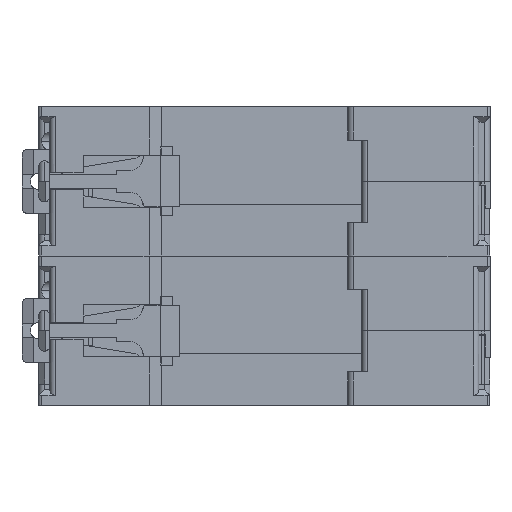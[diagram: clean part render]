
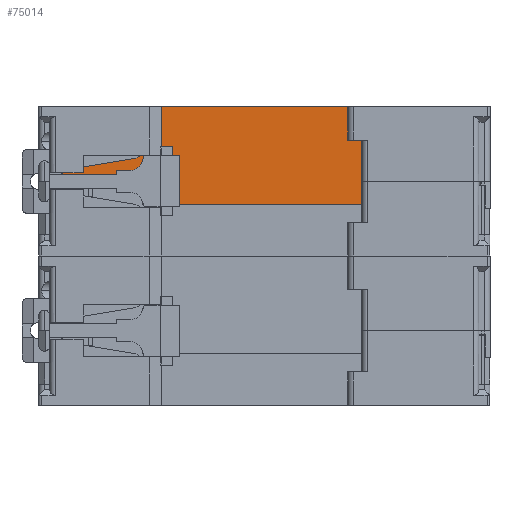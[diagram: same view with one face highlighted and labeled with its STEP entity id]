
A CAD part, front view. The second image highlights one B-rep face of the part: STEP entity #75014.
In plain terms, the highlighted planar face has unit normal (0, -1, 0).
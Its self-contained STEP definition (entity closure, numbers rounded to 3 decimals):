
#338 = CARTESIAN_POINT ( 'NONE',  ( -21.7, -60., 7.5 ) ) ;
#536 = CARTESIAN_POINT ( 'NONE',  ( 17.5, -60., 11.6 ) ) ;
#2205 = CARTESIAN_POINT ( 'NONE',  ( -21.7, -60., 7.5 ) ) ;
#3290 = CARTESIAN_POINT ( 'NONE',  ( -38.5, -60., 11.6 ) ) ;
#3394 = VERTEX_POINT ( 'NONE', #61635 ) ;
#6764 = DIRECTION ( 'NONE',  ( 1., 0., 0. ) ) ;
#7011 = EDGE_CURVE ( 'NONE', #9031, #3394, #61293, .T. ) ;
#7109 = CARTESIAN_POINT ( 'NONE',  ( 20.3, -60., 11.6 ) ) ;
#8163 = LINE ( 'NONE', #27950, #11205 ) ;
#8422 = DIRECTION ( 'NONE',  ( 0., 0., 1. ) ) ;
#8523 = EDGE_CURVE ( 'NONE', #39723, #45818, #73158, .T. ) ;
#9031 = VERTEX_POINT ( 'NONE', #48712 ) ;
#9073 = ORIENTED_EDGE ( 'NONE', *, *, #14411, .T. ) ;
#9301 = LINE ( 'NONE', #40635, #22387 ) ;
#9841 = EDGE_CURVE ( 'NONE', #9031, #45818, #25629, .T. ) ;
#9847 = ORIENTED_EDGE ( 'NONE', *, *, #82690, .F. ) ;
#10232 = ORIENTED_EDGE ( 'NONE', *, *, #52194, .F. ) ;
#10352 = EDGE_CURVE ( 'NONE', #37656, #46892, #45354, .T. ) ;
#10519 = VECTOR ( 'NONE', #32353, 1000. ) ;
#11205 = VECTOR ( 'NONE', #79999, 1000. ) ;
#11443 = DIRECTION ( 'NONE',  ( 1., 0., 0. ) ) ;
#12059 = DIRECTION ( 'NONE',  ( 0., 0., 1. ) ) ;
#13454 = CARTESIAN_POINT ( 'NONE',  ( -22.3, -60., 18. ) ) ;
#14411 = EDGE_CURVE ( 'NONE', #42929, #37656, #29536, .T. ) ;
#16230 = DIRECTION ( 'NONE',  ( 0., -1., 0. ) ) ;
#17585 = EDGE_CURVE ( 'NONE', #56089, #24926, #38776, .T. ) ;
#17915 = CARTESIAN_POINT ( 'NONE',  ( 1.246, -60., 11.6 ) ) ;
#19817 = CARTESIAN_POINT ( 'NONE',  ( -38.5, -60., 17.8 ) ) ;
#21267 = DIRECTION ( 'NONE',  ( 0., 0., 1. ) ) ;
#21538 = ORIENTED_EDGE ( 'NONE', *, *, #26386, .F. ) ;
#22387 = VECTOR ( 'NONE', #40078, 1000. ) ;
#24228 = CARTESIAN_POINT ( 'NONE',  ( -22.3, -60., 18. ) ) ;
#24285 = EDGE_CURVE ( 'NONE', #56313, #51038, #76918, .T. ) ;
#24775 = EDGE_CURVE ( 'NONE', #56313, #30605, #9301, .T. ) ;
#24890 = VECTOR ( 'NONE', #32292, 1000. ) ;
#24926 = VERTEX_POINT ( 'NONE', #35222 ) ;
#25557 = VECTOR ( 'NONE', #11443, 1000. ) ;
#25629 = LINE ( 'NONE', #44359, #34665 ) ;
#25897 = CARTESIAN_POINT ( 'NONE',  ( -21.7, -60., 11.6 ) ) ;
#25920 = DIRECTION ( 'NONE',  ( 1., 0., 0. ) ) ;
#26386 = EDGE_CURVE ( 'NONE', #56089, #46892, #64528, .T. ) ;
#27522 = ORIENTED_EDGE ( 'NONE', *, *, #10352, .T. ) ;
#27950 = CARTESIAN_POINT ( 'NONE',  ( -26.4, -60., 17.8 ) ) ;
#28278 = ORIENTED_EDGE ( 'NONE', *, *, #50991, .F. ) ;
#28383 = CARTESIAN_POINT ( 'NONE',  ( 1.246, -60., 11.6 ) ) ;
#29536 = LINE ( 'NONE', #2205, #72882 ) ;
#29695 = DIRECTION ( 'NONE',  ( -1., 0., 0. ) ) ;
#30605 = VERTEX_POINT ( 'NONE', #19817 ) ;
#31188 = AXIS2_PLACEMENT_3D ( 'NONE', #80404, #16230, #73437 ) ;
#31458 = VECTOR ( 'NONE', #21267, 1000. ) ;
#32046 = VECTOR ( 'NONE', #75485, 1000. ) ;
#32292 = DIRECTION ( 'NONE',  ( 0.913, 0., 0.409 ) ) ;
#32353 = DIRECTION ( 'NONE',  ( 0., 0., 1. ) ) ;
#32889 = DIRECTION ( 'NONE',  ( 0., 0., -1. ) ) ;
#32934 = CARTESIAN_POINT ( 'NONE',  ( 1.246, -60., 25. ) ) ;
#33105 = CARTESIAN_POINT ( 'NONE',  ( -28., -60., 19.1 ) ) ;
#34497 = LINE ( 'NONE', #59910, #31458 ) ;
#34665 = VECTOR ( 'NONE', #64025, 1000. ) ;
#35222 = CARTESIAN_POINT ( 'NONE',  ( 17.5, -60., 25. ) ) ;
#35520 = CARTESIAN_POINT ( 'NONE',  ( 20.3, -60., 7.5 ) ) ;
#37037 = ORIENTED_EDGE ( 'NONE', *, *, #24775, .F. ) ;
#37656 = VERTEX_POINT ( 'NONE', #35520 ) ;
#38776 = LINE ( 'NONE', #536, #10519 ) ;
#39273 = VECTOR ( 'NONE', #12059, 1000. ) ;
#39723 = VERTEX_POINT ( 'NONE', #50540 ) ;
#40078 = DIRECTION ( 'NONE',  ( 0., 0., 1. ) ) ;
#40635 = CARTESIAN_POINT ( 'NONE',  ( -38.5, -60., 11.6 ) ) ;
#40938 = VECTOR ( 'NONE', #25920, 1000. ) ;
#41359 = PLANE ( 'NONE',  #31188 ) ;
#42153 = VECTOR ( 'NONE', #8422, 1000. ) ;
#42929 = VERTEX_POINT ( 'NONE', #338 ) ;
#44359 = CARTESIAN_POINT ( 'NONE',  ( -19., -60., 18. ) ) ;
#45354 = LINE ( 'NONE', #49564, #39273 ) ;
#45818 = VERTEX_POINT ( 'NONE', #78724 ) ;
#46892 = VERTEX_POINT ( 'NONE', #7109 ) ;
#47338 = ORIENTED_EDGE ( 'NONE', *, *, #71279, .F. ) ;
#47402 = VECTOR ( 'NONE', #54105, 1000. ) ;
#47524 = DIRECTION ( 'NONE',  ( 1., 0., 0. ) ) ;
#48712 = CARTESIAN_POINT ( 'NONE',  ( -18.5, -60., 18.5 ) ) ;
#48984 = ORIENTED_EDGE ( 'NONE', *, *, #55043, .F. ) ;
#49564 = CARTESIAN_POINT ( 'NONE',  ( 20.3, -60., -34.51 ) ) ;
#50240 = VECTOR ( 'NONE', #32889, 1000. ) ;
#50540 = CARTESIAN_POINT ( 'NONE',  ( -22.3, -60., 18. ) ) ;
#50991 = EDGE_CURVE ( 'NONE', #3394, #24926, #71919, .T. ) ;
#51038 = VERTEX_POINT ( 'NONE', #25897 ) ;
#51343 = ORIENTED_EDGE ( 'NONE', *, *, #17585, .T. ) ;
#52194 = EDGE_CURVE ( 'NONE', #42929, #51038, #34497, .T. ) ;
#52351 = ORIENTED_EDGE ( 'NONE', *, *, #54055, .T. ) ;
#54055 = EDGE_CURVE ( 'NONE', #64453, #30605, #71468, .T. ) ;
#54105 = DIRECTION ( 'NONE',  ( 1., 0., 0. ) ) ;
#54207 = VERTEX_POINT ( 'NONE', #76577 ) ;
#54389 = VECTOR ( 'NONE', #29695, 1000. ) ;
#55043 = EDGE_CURVE ( 'NONE', #64453, #69913, #61226, .T. ) ;
#55355 = ORIENTED_EDGE ( 'NONE', *, *, #8523, .F. ) ;
#56089 = VERTEX_POINT ( 'NONE', #57121 ) ;
#56313 = VERTEX_POINT ( 'NONE', #3290 ) ;
#57121 = CARTESIAN_POINT ( 'NONE',  ( 17.5, -60., 11.6 ) ) ;
#59910 = CARTESIAN_POINT ( 'NONE',  ( -21.7, -60., -34.51 ) ) ;
#60304 = CARTESIAN_POINT ( 'NONE',  ( -30.9, -60., 17.8 ) ) ;
#61226 = LINE ( 'NONE', #33105, #24890 ) ;
#61240 = LINE ( 'NONE', #62274, #32046 ) ;
#61293 = LINE ( 'NONE', #79868, #42153 ) ;
#61635 = CARTESIAN_POINT ( 'NONE',  ( -18.5, -60., 25. ) ) ;
#62274 = CARTESIAN_POINT ( 'NONE',  ( -22.3, -60., 19.1 ) ) ;
#63836 = VECTOR ( 'NONE', #6764, 1000. ) ;
#64025 = DIRECTION ( 'NONE',  ( -0.707, 0., -0.707 ) ) ;
#64453 = VERTEX_POINT ( 'NONE', #60304 ) ;
#64528 = LINE ( 'NONE', #28383, #47402 ) ;
#66303 = LINE ( 'NONE', #13454, #50240 ) ;
#67461 = FACE_OUTER_BOUND ( 'NONE', #75351, .T. ) ;
#68409 = VERTEX_POINT ( 'NONE', #72779 ) ;
#68788 = CARTESIAN_POINT ( 'NONE',  ( -28., -60., 19.1 ) ) ;
#69913 = VERTEX_POINT ( 'NONE', #68788 ) ;
#71279 = EDGE_CURVE ( 'NONE', #68409, #39723, #66303, .T. ) ;
#71468 = LINE ( 'NONE', #74791, #54389 ) ;
#71919 = LINE ( 'NONE', #32934, #63836 ) ;
#72056 = ORIENTED_EDGE ( 'NONE', *, *, #9841, .T. ) ;
#72779 = CARTESIAN_POINT ( 'NONE',  ( -22.3, -60., 19.1 ) ) ;
#72882 = VECTOR ( 'NONE', #47524, 1000. ) ;
#73158 = LINE ( 'NONE', #24228, #40938 ) ;
#73228 = ORIENTED_EDGE ( 'NONE', *, *, #7011, .F. ) ;
#73437 = DIRECTION ( 'NONE',  ( 1., 0., 0. ) ) ;
#74791 = CARTESIAN_POINT ( 'NONE',  ( -38.5, -60., 17.8 ) ) ;
#75014 = ADVANCED_FACE ( 'NONE', ( #67461 ), #41359, .T. ) ;
#75351 = EDGE_LOOP ( 'NONE', ( #28278, #73228, #72056, #55355, #47338, #9847, #79320, #48984, #52351, #37037, #75725, #10232, #9073, #27522, #21538, #51343 ) ) ;
#75485 = DIRECTION ( 'NONE',  ( 0.953, 0., 0.302 ) ) ;
#75725 = ORIENTED_EDGE ( 'NONE', *, *, #24285, .T. ) ;
#76577 = CARTESIAN_POINT ( 'NONE',  ( -26.4, -60., 17.8 ) ) ;
#76918 = LINE ( 'NONE', #17915, #25557 ) ;
#78724 = CARTESIAN_POINT ( 'NONE',  ( -19., -60., 18. ) ) ;
#79320 = ORIENTED_EDGE ( 'NONE', *, *, #80218, .F. ) ;
#79868 = CARTESIAN_POINT ( 'NONE',  ( -18.5, -60., 17.8 ) ) ;
#79999 = DIRECTION ( 'NONE',  ( 0.776, 0., -0.631 ) ) ;
#80218 = EDGE_CURVE ( 'NONE', #69913, #54207, #8163, .T. ) ;
#80404 = CARTESIAN_POINT ( 'NONE',  ( 1.246, -60., 11.6 ) ) ;
#82690 = EDGE_CURVE ( 'NONE', #54207, #68409, #61240, .T. ) ;
